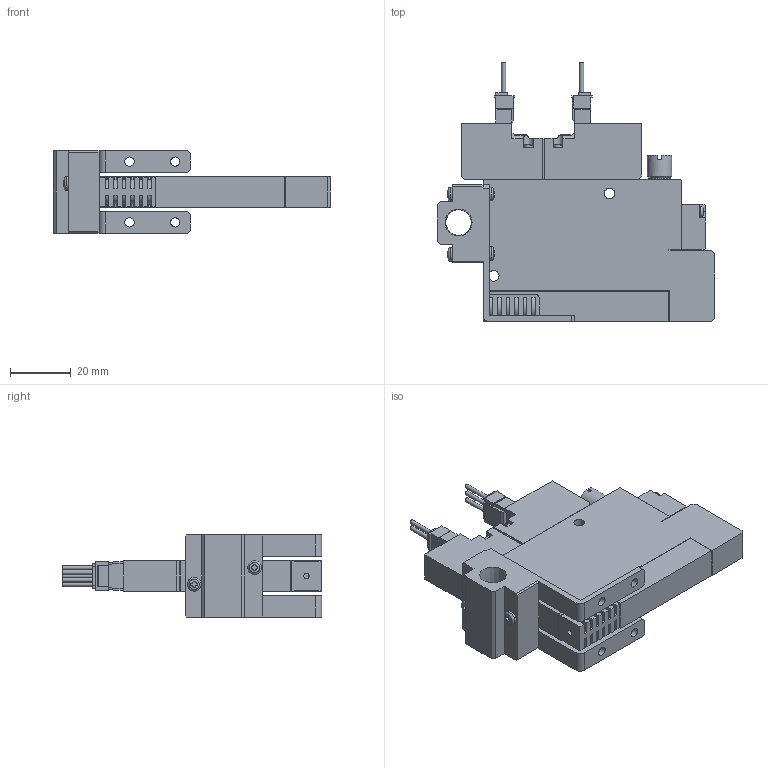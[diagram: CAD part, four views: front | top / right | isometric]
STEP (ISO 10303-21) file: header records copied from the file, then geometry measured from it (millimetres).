
FILE_DESCRIPTION(('STEP AP203'),'1');
FILE_NAME('5WS101_3D.stp','2024-09-04T06:23:42',(' '),(' '),'Spatial InterOp 3D',' ',' ');
FILE_SCHEMA(('CONFIG_CONTROL_DESIGN'));
Length unit declared in the file: millimetre
Products named in the file (5): BSC1M※※ZZ※5WS101; Solenoid valve W; Pressure Sensor ZZ; Unit-S; BaseMS10R
Assembly tree (4 placements, depth 2):
  BSC1M※※ZZ※5WS101
    Solenoid valve W
    Pressure Sensor ZZ
    Unit-S
    BaseMS10R
Bounding box: 91 x 85.05 x 27 mm (x, y, z)
Volume: 50919.7 mm3; surface area: 22473.2 mm2
Topology: 4 solids, 4 shells, 532 faces, 1451 edges, 960 vertices
Faces by surface type: plane 381, cylinder 128, sphere 8, torus 8, cone 7
Full cylindrical faces by diameter (mm): 1.4 x5, 1.8 x1, 2.5 x2, 3 x8, 3.5 x6, 4 x1, 4.134 x2, 4.5 x6, 5.5 x1, 7 x1, 7.7 x1, 8 x1, 8.422 x1
Entity records: 17076 total; most frequent: CARTESIAN_POINT 3528, ORIENTED_EDGE 2746, DIRECTION 2668, EDGE_CURVE 1373, LINE 1038, VECTOR 1038, VERTEX_POINT 941, AXIS2_PLACEMENT_3D 815
